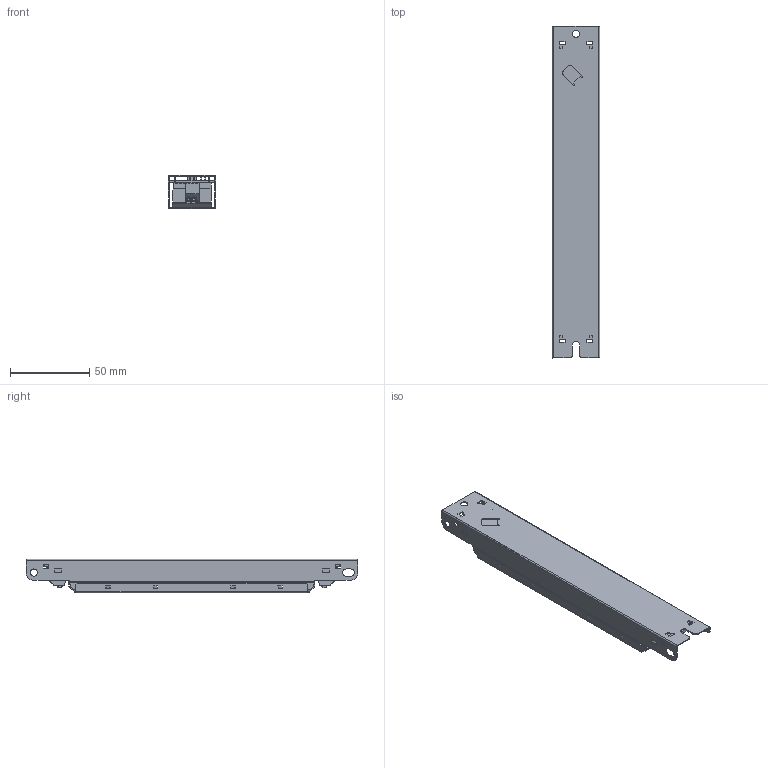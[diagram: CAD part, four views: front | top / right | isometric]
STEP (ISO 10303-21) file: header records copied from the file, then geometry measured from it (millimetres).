
FILE_DESCRIPTION(('Creo Elements/Direct Modeling STEP Export'),'2;1');
FILE_NAME('40W_EasyLine DIP switch L_LV.stp','2024-12-05T11:48:06',(''),(''),'Creo Elements/Direct Modeling STEP processor for AP214 (Solid Model)','Creo Elements/Direct Modeling 20.6 25-Mar-2023 (C) Parametric Technology GmbH','');
FILE_SCHEMA(('AUTOMOTIVE_DESIGN { 1 0 10303 214 1 1 1 1 }'));
Length unit declared in the file: millimetre
Products named in the file (4): casing top; PCB; casing bottom; 40W.stp
Assembly tree (3 placements, depth 2):
  40W.stp
    casing bottom
    PCB
    casing top
Bounding box: 30 x 210 x 21 mm (x, y, z)
Volume: 21162.3 mm3; surface area: 53536.7 mm2
Topology: 3 solids, 3 shells, 797 faces, 2259 edges, 1481 vertices
Faces by surface type: plane 593, cylinder 140, extrusion 54, cone 10
Entity records: 28375 total; most frequent: CARTESIAN_POINT 6507, ORIENTED_EDGE 4518, DIRECTION 3913, EDGE_CURVE 2259, VECTOR 1877, LINE 1823, VERTEX_POINT 1481, AXIS2_PLACEMENT_3D 1018
